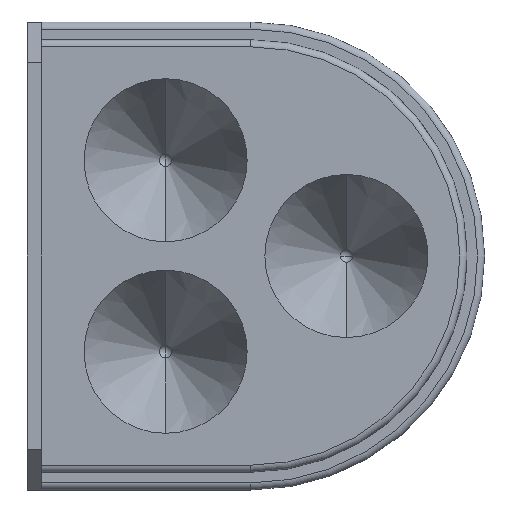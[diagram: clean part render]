
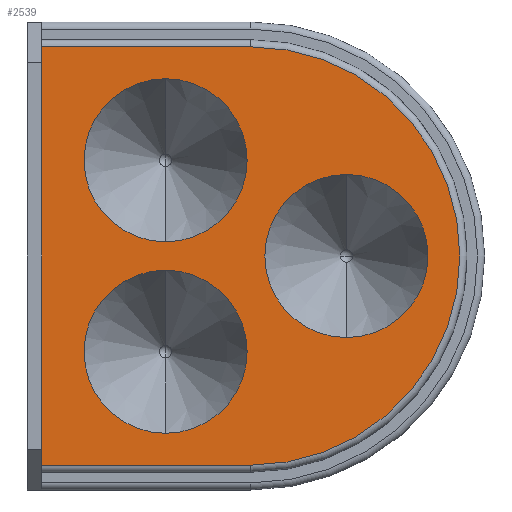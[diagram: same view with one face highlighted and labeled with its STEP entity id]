
A CAD part, front view. The second image highlights one B-rep face of the part: STEP entity #2539.
In plain terms, the highlighted planar face has unit normal (0, -1, 0).
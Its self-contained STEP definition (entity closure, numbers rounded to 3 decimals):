
#3 = EDGE_CURVE ( 'NONE', #2458, #696, #1330, .T. ) ;
#18 = DIRECTION ( 'NONE',  ( 0., 0., -1. ) ) ;
#19 = AXIS2_PLACEMENT_3D ( 'NONE', #566, #1352, #3213 ) ;
#36 = EDGE_CURVE ( 'NONE', #403, #1132, #2471, .T. ) ;
#45 = DIRECTION ( 'NONE',  ( 0., -1., 0. ) ) ;
#76 = DIRECTION ( 'NONE',  ( -1., 0., 0. ) ) ;
#97 = ORIENTED_EDGE ( 'NONE', *, *, #2354, .F. ) ;
#119 = DIRECTION ( 'NONE',  ( 0., 1., 0. ) ) ;
#189 = CIRCLE ( 'NONE', #1261, 11.5 ) ;
#249 = EDGE_CURVE ( 'NONE', #1068, #2238, #1818, .T. ) ;
#292 = ORIENTED_EDGE ( 'NONE', *, *, #36, .T. ) ;
#367 = CARTESIAN_POINT ( 'NONE',  ( 17.5, 0., 25. ) ) ;
#376 = DIRECTION ( 'NONE',  ( 0., 0., -1. ) ) ;
#403 = VERTEX_POINT ( 'NONE', #2304 ) ;
#495 = VECTOR ( 'NONE', #76, 1000. ) ;
#528 = ORIENTED_EDGE ( 'NONE', *, *, #569, .F. ) ;
#566 = CARTESIAN_POINT ( 'NONE',  ( 17.5, 0., -13.5 ) ) ;
#569 = EDGE_CURVE ( 'NONE', #2238, #1068, #189, .T. ) ;
#683 = FACE_OUTER_BOUND ( 'NONE', #2679, .T. ) ;
#696 = VERTEX_POINT ( 'NONE', #3059 ) ;
#880 = PLANE ( 'NONE',  #1269 ) ;
#890 = FACE_BOUND ( 'NONE', #2359, .T. ) ;
#892 = CIRCLE ( 'NONE', #3150, 11.5 ) ;
#958 = ORIENTED_EDGE ( 'NONE', *, *, #2685, .T. ) ;
#1068 = VERTEX_POINT ( 'NONE', #367 ) ;
#1089 = VERTEX_POINT ( 'NONE', #2473 ) ;
#1132 = VERTEX_POINT ( 'NONE', #1401 ) ;
#1163 = ORIENTED_EDGE ( 'NONE', *, *, #3, .F. ) ;
#1251 = CARTESIAN_POINT ( 'NONE',  ( 17.5, 0., -2. ) ) ;
#1261 = AXIS2_PLACEMENT_3D ( 'NONE', #3221, #45, #1385 ) ;
#1269 = AXIS2_PLACEMENT_3D ( 'NONE', #2980, #119, #1449 ) ;
#1330 = LINE ( 'NONE', #2170, #3165 ) ;
#1352 = DIRECTION ( 'NONE',  ( 0., -1., 0. ) ) ;
#1354 = CIRCLE ( 'NONE', #2040, 11.5 ) ;
#1379 = DIRECTION ( 'NONE',  ( 0., 0., -1. ) ) ;
#1385 = DIRECTION ( 'NONE',  ( 0., 0., -1. ) ) ;
#1392 = EDGE_CURVE ( 'NONE', #2613, #1826, #1649, .T. ) ;
#1401 = CARTESIAN_POINT ( 'NONE',  ( 0., 0., 29.5 ) ) ;
#1428 = CARTESIAN_POINT ( 'NONE',  ( 29.5, 0., 29.5 ) ) ;
#1449 = DIRECTION ( 'NONE',  ( 1., 0., 0. ) ) ;
#1481 = CARTESIAN_POINT ( 'NONE',  ( 17.5, 0., 13.5 ) ) ;
#1495 = DIRECTION ( 'NONE',  ( 0., 0., -1. ) ) ;
#1501 = EDGE_LOOP ( 'NONE', ( #528, #1544 ) ) ;
#1505 = CIRCLE ( 'NONE', #2885, 29.5 ) ;
#1530 = CARTESIAN_POINT ( 'NONE',  ( 17.5, 0., -13.5 ) ) ;
#1544 = ORIENTED_EDGE ( 'NONE', *, *, #249, .F. ) ;
#1551 = DIRECTION ( 'NONE',  ( 0., -1., 0. ) ) ;
#1649 = CIRCLE ( 'NONE', #1977, 11.5 ) ;
#1665 = CARTESIAN_POINT ( 'NONE',  ( 43., 0., 0. ) ) ;
#1818 = CIRCLE ( 'NONE', #3068, 11.5 ) ;
#1826 = VERTEX_POINT ( 'NONE', #2342 ) ;
#1837 = CARTESIAN_POINT ( 'NONE',  ( 29.5, 0., 0. ) ) ;
#1912 = CARTESIAN_POINT ( 'NONE',  ( 29.5, 0., -29.5 ) ) ;
#1924 = DIRECTION ( 'NONE',  ( -1., 0., 0. ) ) ;
#1933 = CARTESIAN_POINT ( 'NONE',  ( 43., 0., 0. ) ) ;
#1934 = FACE_BOUND ( 'NONE', #2580, .T. ) ;
#1977 = AXIS2_PLACEMENT_3D ( 'NONE', #1530, #1551, #18 ) ;
#1998 = DIRECTION ( 'NONE',  ( 0., 0., -1. ) ) ;
#2007 = EDGE_CURVE ( 'NONE', #3001, #1089, #892, .T. ) ;
#2040 = AXIS2_PLACEMENT_3D ( 'NONE', #1933, #2413, #1379 ) ;
#2170 = CARTESIAN_POINT ( 'NONE',  ( 29.5, 0., -29.5 ) ) ;
#2205 = DIRECTION ( 'NONE',  ( 0., -1., 0. ) ) ;
#2238 = VERTEX_POINT ( 'NONE', #2804 ) ;
#2304 = CARTESIAN_POINT ( 'NONE',  ( 29.5, 0., 29.5 ) ) ;
#2319 = DIRECTION ( 'NONE',  ( 0., 0., -1. ) ) ;
#2342 = CARTESIAN_POINT ( 'NONE',  ( 17.5, 0., -25. ) ) ;
#2354 = EDGE_CURVE ( 'NONE', #1826, #2613, #2724, .T. ) ;
#2359 = EDGE_LOOP ( 'NONE', ( #97, #2465 ) ) ;
#2413 = DIRECTION ( 'NONE',  ( 0., -1., 0. ) ) ;
#2458 = VERTEX_POINT ( 'NONE', #1912 ) ;
#2465 = ORIENTED_EDGE ( 'NONE', *, *, #1392, .F. ) ;
#2471 = LINE ( 'NONE', #1428, #495 ) ;
#2473 = CARTESIAN_POINT ( 'NONE',  ( 43., 0., 11.5 ) ) ;
#2494 = EDGE_CURVE ( 'NONE', #1089, #3001, #1354, .T. ) ;
#2539 = ADVANCED_FACE ( 'NONE', ( #683, #3056, #890, #1934 ), #880, .F. ) ;
#2580 = EDGE_LOOP ( 'NONE', ( #2630, #3076 ) ) ;
#2583 = DIRECTION ( 'NONE',  ( 0., -1., 0. ) ) ;
#2613 = VERTEX_POINT ( 'NONE', #1251 ) ;
#2630 = ORIENTED_EDGE ( 'NONE', *, *, #2007, .F. ) ;
#2679 = EDGE_LOOP ( 'NONE', ( #958, #1163, #3313, #292 ) ) ;
#2685 = EDGE_CURVE ( 'NONE', #1132, #696, #3227, .T. ) ;
#2686 = VECTOR ( 'NONE', #1495, 1000. ) ;
#2724 = CIRCLE ( 'NONE', #19, 11.5 ) ;
#2804 = CARTESIAN_POINT ( 'NONE',  ( 17.5, 0., 2. ) ) ;
#2885 = AXIS2_PLACEMENT_3D ( 'NONE', #1837, #2583, #2319 ) ;
#2940 = CARTESIAN_POINT ( 'NONE',  ( 43., 0., -11.5 ) ) ;
#2980 = CARTESIAN_POINT ( 'NONE',  ( 29.5, 0., 29.5 ) ) ;
#3001 = VERTEX_POINT ( 'NONE', #2940 ) ;
#3052 = DIRECTION ( 'NONE',  ( 0., -1., 0. ) ) ;
#3056 = FACE_BOUND ( 'NONE', #1501, .T. ) ;
#3059 = CARTESIAN_POINT ( 'NONE',  ( 0., 0., -29.5 ) ) ;
#3068 = AXIS2_PLACEMENT_3D ( 'NONE', #1481, #3052, #1998 ) ;
#3076 = ORIENTED_EDGE ( 'NONE', *, *, #2494, .F. ) ;
#3150 = AXIS2_PLACEMENT_3D ( 'NONE', #1665, #2205, #376 ) ;
#3165 = VECTOR ( 'NONE', #1924, 1000. ) ;
#3213 = DIRECTION ( 'NONE',  ( 0., 0., -1. ) ) ;
#3221 = CARTESIAN_POINT ( 'NONE',  ( 17.5, 0., 13.5 ) ) ;
#3227 = LINE ( 'NONE', #3293, #2686 ) ;
#3293 = CARTESIAN_POINT ( 'NONE',  ( 0., 0., 29.5 ) ) ;
#3313 = ORIENTED_EDGE ( 'NONE', *, *, #3320, .T. ) ;
#3320 = EDGE_CURVE ( 'NONE', #2458, #403, #1505, .T. ) ;
